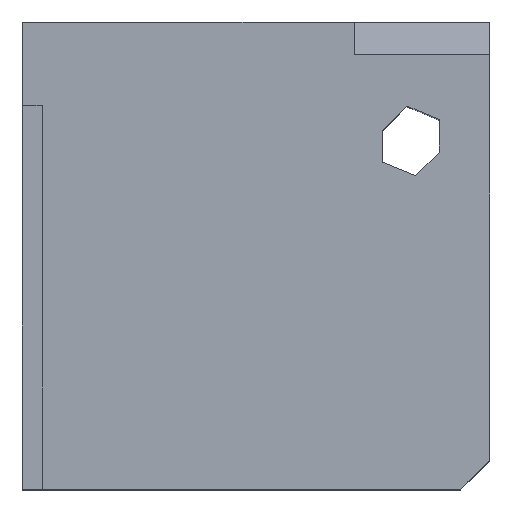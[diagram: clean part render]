
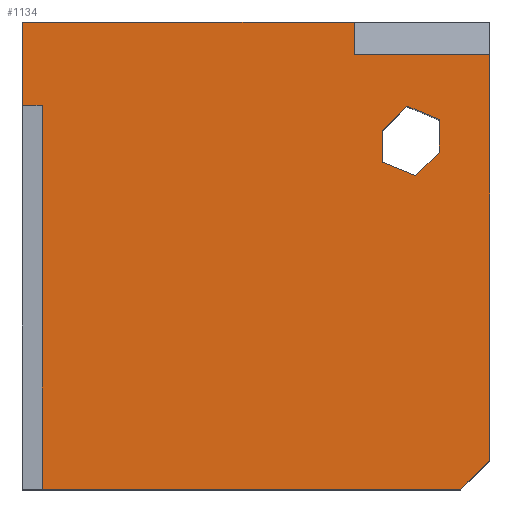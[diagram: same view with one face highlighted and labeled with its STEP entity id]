
A CAD part, top view. The second image highlights one B-rep face of the part: STEP entity #1134.
In plain terms, the highlighted planar face has unit normal (0, 0, 1).
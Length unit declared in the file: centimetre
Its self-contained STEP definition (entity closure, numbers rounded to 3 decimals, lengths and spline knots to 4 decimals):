
#50 = VECTOR ( 'NONE', #664, 100. ) ;
#56 = FACE_OUTER_BOUND ( 'NONE', #1088, .T. ) ;
#64 = VERTEX_POINT ( 'NONE', #1113 ) ;
#69 = CARTESIAN_POINT ( 'NONE',  ( 710.4122, 1000., 1000. ) ) ;
#72 = EDGE_CURVE ( 'NONE', #782, #1135, #126, .T. ) ;
#73 = ORIENTED_EDGE ( 'NONE', *, *, #266, .T. ) ;
#80 = VECTOR ( 'NONE', #593, 100. ) ;
#102 = DIRECTION ( 'NONE',  ( 0.707, 0.707, 0. ) ) ;
#104 = VERTEX_POINT ( 'NONE', #912 ) ;
#110 = CARTESIAN_POINT ( 'NONE',  ( 770.3921, 700.1682, 1000. ) ) ;
#111 = VECTOR ( 'NONE', #174, 100. ) ;
#121 = EDGE_CURVE ( 'NONE', #698, #1215, #1106, .T. ) ;
#124 = ORIENTED_EDGE ( 'NONE', *, *, #199, .F. ) ;
#126 = LINE ( 'NONE', #1193, #1095 ) ;
#127 = EDGE_CURVE ( 'NONE', #1100, #598, #617, .T. ) ;
#133 = LINE ( 'NONE', #310, #152 ) ;
#137 = CARTESIAN_POINT ( 'NONE',  ( 938.3291, 0., 1000. ) ) ;
#142 = EDGE_CURVE ( 'NONE', #1176, #164, #133, .T. ) ;
#152 = VECTOR ( 'NONE', #501, 100. ) ;
#164 = VERTEX_POINT ( 'NONE', #903 ) ;
#174 = DIRECTION ( 'NONE',  ( -0.922, 0.388, 0. ) ) ;
#192 = LINE ( 'NONE', #398, #751 ) ;
#199 = EDGE_CURVE ( 'NONE', #1135, #1086, #811, .T. ) ;
#218 = VERTEX_POINT ( 'NONE', #854 ) ;
#222 = CARTESIAN_POINT ( 'NONE',  ( 42.4991, 821.2926, 1000. ) ) ;
#223 = DIRECTION ( 'NONE',  ( -1., 0., 0. ) ) ;
#225 = CARTESIAN_POINT ( 'NONE',  ( 1000., 1000., 1000. ) ) ;
#237 = DIRECTION ( 'NONE',  ( 1., 0., 0. ) ) ;
#245 = DIRECTION ( 'NONE',  ( 0., 0., 1. ) ) ;
#266 = EDGE_CURVE ( 'NONE', #1276, #164, #1109, .T. ) ;
#278 = VECTOR ( 'NONE', #1036, 100. ) ;
#281 = VECTOR ( 'NONE', #102, 100. ) ;
#292 = ORIENTED_EDGE ( 'NONE', *, *, #608, .F. ) ;
#294 = LINE ( 'NONE', #691, #281 ) ;
#310 = CARTESIAN_POINT ( 'NONE',  ( 710.4122, 929.7796, 1000. ) ) ;
#316 = LINE ( 'NONE', #706, #852 ) ;
#393 = LINE ( 'NONE', #110, #80 ) ;
#396 = EDGE_LOOP ( 'NONE', ( #477, #964, #1250, #124, #990, #708 ) ) ;
#398 = CARTESIAN_POINT ( 'NONE',  ( 841.7834, 670.9812, 1000. ) ) ;
#402 = CARTESIAN_POINT ( 'NONE',  ( 823.0544, 820.1687, 1000. ) ) ;
#430 = DIRECTION ( 'NONE',  ( -0.707, -0.707, 0. ) ) ;
#448 = ORIENTED_EDGE ( 'NONE', *, *, #142, .F. ) ;
#450 = PLANE ( 'NONE',  #551 ) ;
#477 = ORIENTED_EDGE ( 'NONE', *, *, #788, .F. ) ;
#491 = EDGE_CURVE ( 'NONE', #104, #782, #1035, .T. ) ;
#501 = DIRECTION ( 'NONE',  ( 1., 0., 0. ) ) ;
#520 = CARTESIAN_POINT ( 'NONE',  ( 0., 1000., 1000. ) ) ;
#527 = CARTESIAN_POINT ( 'NONE',  ( 0., 0., 1000. ) ) ;
#551 = AXIS2_PLACEMENT_3D ( 'NONE', #921, #245, #237 ) ;
#593 = DIRECTION ( 'NONE',  ( 0.926, -0.378, 0. ) ) ;
#598 = VERTEX_POINT ( 'NONE', #1150 ) ;
#601 = CARTESIAN_POINT ( 'NONE',  ( 892.3367, 721.5346, 1000. ) ) ;
#608 = EDGE_CURVE ( 'NONE', #64, #1176, #1251, .T. ) ;
#617 = LINE ( 'NONE', #1093, #1147 ) ;
#618 = CARTESIAN_POINT ( 'NONE',  ( 710.4122, 929.7796, 1000. ) ) ;
#641 = CARTESIAN_POINT ( 'NONE',  ( 770.3921, 767.5064, 1000. ) ) ;
#657 = CARTESIAN_POINT ( 'NONE',  ( 892.3367, 790.9817, 1000. ) ) ;
#661 = EDGE_CURVE ( 'NONE', #698, #598, #953, .T. ) ;
#664 = DIRECTION ( 'NONE',  ( -1., 0., 0. ) ) ;
#668 = CARTESIAN_POINT ( 'NONE',  ( 42.4991, 821.2926, 1000. ) ) ;
#691 = CARTESIAN_POINT ( 'NONE',  ( 469.1646, -469.1646, 1000. ) ) ;
#692 = VECTOR ( 'NONE', #923, 100. ) ;
#698 = VERTEX_POINT ( 'NONE', #668 ) ;
#706 = CARTESIAN_POINT ( 'NONE',  ( 0., 1000., 1000. ) ) ;
#708 = ORIENTED_EDGE ( 'NONE', *, *, #491, .F. ) ;
#717 = DIRECTION ( 'NONE',  ( 0., -1., 0. ) ) ;
#723 = DIRECTION ( 'NONE',  ( 0., -1., 0. ) ) ;
#729 = ORIENTED_EDGE ( 'NONE', *, *, #994, .T. ) ;
#751 = VECTOR ( 'NONE', #784, 100. ) ;
#782 = VERTEX_POINT ( 'NONE', #402 ) ;
#784 = DIRECTION ( 'NONE',  ( 0.707, 0.707, 0. ) ) ;
#788 = EDGE_CURVE ( 'NONE', #1026, #104, #1269, .T. ) ;
#796 = DIRECTION ( 'NONE',  ( 0., -1., 0. ) ) ;
#802 = ORIENTED_EDGE ( 'NONE', *, *, #661, .F. ) ;
#808 = CARTESIAN_POINT ( 'NONE',  ( 770.3921, 700.1682, 1000. ) ) ;
#811 = LINE ( 'NONE', #1212, #902 ) ;
#812 = FACE_BOUND ( 'NONE', #396, .T. ) ;
#818 = ORIENTED_EDGE ( 'NONE', *, *, #127, .T. ) ;
#852 = VECTOR ( 'NONE', #223, 100. ) ;
#854 = CARTESIAN_POINT ( 'NONE',  ( 841.7834, 670.9812, 1000. ) ) ;
#868 = VECTOR ( 'NONE', #1203, 100. ) ;
#888 = DIRECTION ( 'NONE',  ( 0., 1., 0. ) ) ;
#902 = VECTOR ( 'NONE', #717, 100. ) ;
#903 = CARTESIAN_POINT ( 'NONE',  ( 1000., 929.7796, 1000. ) ) ;
#912 = CARTESIAN_POINT ( 'NONE',  ( 892.3367, 790.9817, 1000. ) ) ;
#915 = EDGE_CURVE ( 'NONE', #1086, #218, #393, .T. ) ;
#921 = CARTESIAN_POINT ( 'NONE',  ( 0., 0., 1000. ) ) ;
#923 = DIRECTION ( 'NONE',  ( 1., 0., 0. ) ) ;
#937 = EDGE_CURVE ( 'NONE', #1055, #1276, #294, .T. ) ;
#953 = LINE ( 'NONE', #1158, #50 ) ;
#964 = ORIENTED_EDGE ( 'NONE', *, *, #966, .F. ) ;
#966 = EDGE_CURVE ( 'NONE', #218, #1026, #192, .T. ) ;
#979 = ORIENTED_EDGE ( 'NONE', *, *, #937, .T. ) ;
#990 = ORIENTED_EDGE ( 'NONE', *, *, #72, .F. ) ;
#994 = EDGE_CURVE ( 'NONE', #1215, #1055, #1016, .T. ) ;
#1014 = CARTESIAN_POINT ( 'NONE',  ( 42.4991, 0., 1000. ) ) ;
#1016 = LINE ( 'NONE', #527, #692 ) ;
#1026 = VERTEX_POINT ( 'NONE', #1216 ) ;
#1035 = LINE ( 'NONE', #657, #111 ) ;
#1036 = DIRECTION ( 'NONE',  ( 0., -1., 0. ) ) ;
#1043 = ORIENTED_EDGE ( 'NONE', *, *, #1174, .T. ) ;
#1055 = VERTEX_POINT ( 'NONE', #137 ) ;
#1060 = VECTOR ( 'NONE', #888, 100. ) ;
#1086 = VERTEX_POINT ( 'NONE', #808 ) ;
#1088 = EDGE_LOOP ( 'NONE', ( #1258, #729, #979, #73, #448, #292, #1043, #818, #802 ) ) ;
#1093 = CARTESIAN_POINT ( 'NONE',  ( 0., 1000., 1000. ) ) ;
#1095 = VECTOR ( 'NONE', #430, 100. ) ;
#1100 = VERTEX_POINT ( 'NONE', #520 ) ;
#1106 = LINE ( 'NONE', #222, #1270 ) ;
#1109 = LINE ( 'NONE', #225, #868 ) ;
#1113 = CARTESIAN_POINT ( 'NONE',  ( 710.4122, 1000., 1000. ) ) ;
#1134 = ADVANCED_FACE ( 'NONE', ( #812, #56 ), #450, .T. ) ;
#1135 = VERTEX_POINT ( 'NONE', #641 ) ;
#1147 = VECTOR ( 'NONE', #796, 100. ) ;
#1150 = CARTESIAN_POINT ( 'NONE',  ( 0., 821.2926, 1000. ) ) ;
#1158 = CARTESIAN_POINT ( 'NONE',  ( 0., 821.2926, 1000. ) ) ;
#1174 = EDGE_CURVE ( 'NONE', #64, #1100, #316, .T. ) ;
#1176 = VERTEX_POINT ( 'NONE', #618 ) ;
#1193 = CARTESIAN_POINT ( 'NONE',  ( 823.0544, 820.1687, 1000. ) ) ;
#1203 = DIRECTION ( 'NONE',  ( 0., 1., 0. ) ) ;
#1212 = CARTESIAN_POINT ( 'NONE',  ( 770.3921, 767.5064, 1000. ) ) ;
#1214 = CARTESIAN_POINT ( 'NONE',  ( 1000., 61.6709, 1000. ) ) ;
#1215 = VERTEX_POINT ( 'NONE', #1014 ) ;
#1216 = CARTESIAN_POINT ( 'NONE',  ( 892.3367, 721.5346, 1000. ) ) ;
#1250 = ORIENTED_EDGE ( 'NONE', *, *, #915, .F. ) ;
#1251 = LINE ( 'NONE', #69, #278 ) ;
#1258 = ORIENTED_EDGE ( 'NONE', *, *, #121, .T. ) ;
#1269 = LINE ( 'NONE', #601, #1060 ) ;
#1270 = VECTOR ( 'NONE', #723, 100. ) ;
#1276 = VERTEX_POINT ( 'NONE', #1214 ) ;
